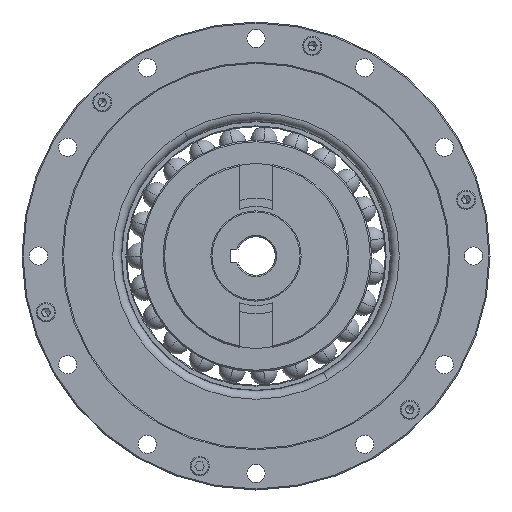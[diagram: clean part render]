
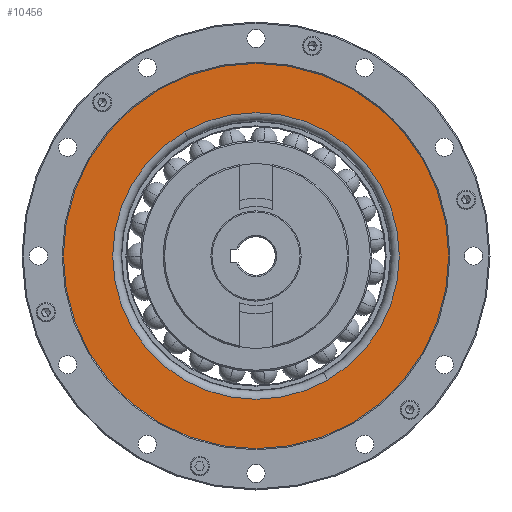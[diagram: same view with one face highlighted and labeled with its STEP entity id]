
A CAD part, left-side view. The second image highlights one B-rep face of the part: STEP entity #10456.
In plain terms, the highlighted planar face has unit normal (-1, 0, 0).
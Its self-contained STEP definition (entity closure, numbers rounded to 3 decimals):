
#114 = VERTEX_POINT ( 'NONE', #9396 ) ;
#1714 = CIRCLE ( 'NONE', #10118, 70. ) ;
#2845 = FACE_BOUND ( 'NONE', #8930, .T. ) ;
#2918 = DIRECTION ( 'NONE',  ( 0., 0.5, 0.866 ) ) ;
#2973 = DIRECTION ( 'NONE',  ( -1., 0., 0. ) ) ;
#3161 = CIRCLE ( 'NONE', #12986, 52.07 ) ;
#3352 = DIRECTION ( 'NONE',  ( 0., 0.5, 0.866 ) ) ;
#3367 = ORIENTED_EDGE ( 'NONE', *, *, #9185, .T. ) ;
#3393 = DIRECTION ( 'NONE',  ( -1., 0., 0. ) ) ;
#3435 = PLANE ( 'NONE',  #6111 ) ;
#3565 = CARTESIAN_POINT ( 'NONE',  ( -35.371, -4.436, 135. ) ) ;
#4417 = CARTESIAN_POINT ( 'NONE',  ( -35.371, -30.471, 89.906 ) ) ;
#4512 = CARTESIAN_POINT ( 'NONE',  ( -35.371, -39.436, 74.378 ) ) ;
#4977 = AXIS2_PLACEMENT_3D ( 'NONE', #11096, #2973, #2918 ) ;
#5307 = ORIENTED_EDGE ( 'NONE', *, *, #11284, .T. ) ;
#5471 = ORIENTED_EDGE ( 'NONE', *, *, #8724, .T. ) ;
#5505 = VERTEX_POINT ( 'NONE', #9742 ) ;
#5843 = DIRECTION ( 'NONE',  ( 0., 0.5, 0.866 ) ) ;
#5860 = DIRECTION ( 'NONE',  ( 1., 0., 0. ) ) ;
#5972 = CARTESIAN_POINT ( 'NONE',  ( -35.371, -4.436, 135. ) ) ;
#6111 = AXIS2_PLACEMENT_3D ( 'NONE', #3565, #3393, #3352 ) ;
#7829 = CIRCLE ( 'NONE', #4977, 70. ) ;
#7842 = DIRECTION ( 'NONE',  ( 0., 0.5, 0.866 ) ) ;
#7889 = DIRECTION ( 'NONE',  ( -1., 0., 0. ) ) ;
#7908 = FACE_OUTER_BOUND ( 'NONE', #11198, .T. ) ;
#7977 = CARTESIAN_POINT ( 'NONE',  ( -35.371, -4.436, 135. ) ) ;
#8379 = DIRECTION ( 'NONE',  ( 0., 0.5, 0.866 ) ) ;
#8724 = EDGE_CURVE ( 'NONE', #10923, #114, #7829, .T. ) ;
#8900 = AXIS2_PLACEMENT_3D ( 'NONE', #11394, #11408, #8379 ) ;
#8930 = EDGE_LOOP ( 'NONE', ( #11404, #3367 ) ) ;
#9185 = EDGE_CURVE ( 'NONE', #10433, #5505, #3161, .T. ) ;
#9396 = CARTESIAN_POINT ( 'NONE',  ( -35.371, 30.564, 195.622 ) ) ;
#9742 = CARTESIAN_POINT ( 'NONE',  ( -35.371, 21.599, 180.094 ) ) ;
#10118 = AXIS2_PLACEMENT_3D ( 'NONE', #7977, #7889, #7842 ) ;
#10433 = VERTEX_POINT ( 'NONE', #4417 ) ;
#10456 = ADVANCED_FACE ( 'NONE', ( #2845, #7908 ), #3435, .T. ) ;
#10481 = CIRCLE ( 'NONE', #8900, 52.07 ) ;
#10923 = VERTEX_POINT ( 'NONE', #4512 ) ;
#11096 = CARTESIAN_POINT ( 'NONE',  ( -35.371, -4.436, 135. ) ) ;
#11198 = EDGE_LOOP ( 'NONE', ( #5307, #5471 ) ) ;
#11284 = EDGE_CURVE ( 'NONE', #114, #10923, #1714, .T. ) ;
#11394 = CARTESIAN_POINT ( 'NONE',  ( -35.371, -4.436, 135. ) ) ;
#11404 = ORIENTED_EDGE ( 'NONE', *, *, #11643, .T. ) ;
#11408 = DIRECTION ( 'NONE',  ( 1., 0., 0. ) ) ;
#11643 = EDGE_CURVE ( 'NONE', #5505, #10433, #10481, .T. ) ;
#12986 = AXIS2_PLACEMENT_3D ( 'NONE', #5972, #5860, #5843 ) ;
